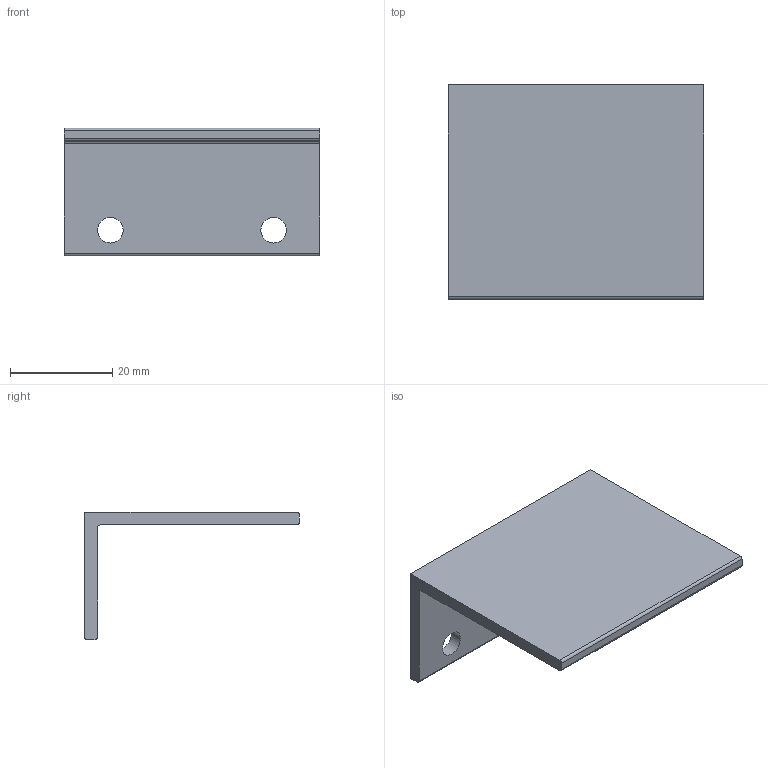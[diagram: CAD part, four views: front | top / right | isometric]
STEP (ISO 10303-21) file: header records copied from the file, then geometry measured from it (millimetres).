
FILE_DESCRIPTION( ( '' ), '1' );
FILE_NAME( 'D:/1.AUTOCAD EXPORT/Group 10/sheet_10_1/ 9070583.stp', '2013-10-21T12:28:37', ( '' ), ( '' ), ' ', ' ', ' ' );
FILE_SCHEMA( ( 'automotive_design' ) );
Length unit declared in the file: millimetre
Products named in the file (1): 1
Bounding box: 50 x 42 x 25 mm (x, y, z)
Volume: 7956.3 mm3; surface area: 6968.5 mm2
Topology: 1 solids, 1 shells, 17 faces, 45 edges, 30 vertices
Faces by surface type: cylinder 9, plane 8
Entity records: 1080 total; most frequent: DIRECTION 99, STYLED_ITEM 93, PRESENTATION_STYLE_ASSIGNMENT 93, CARTESIAN_POINT 93, COLOUR_RGB 93, ORIENTED_EDGE 90, EDGE_CURVE 45, CURVE_STYLE 45
